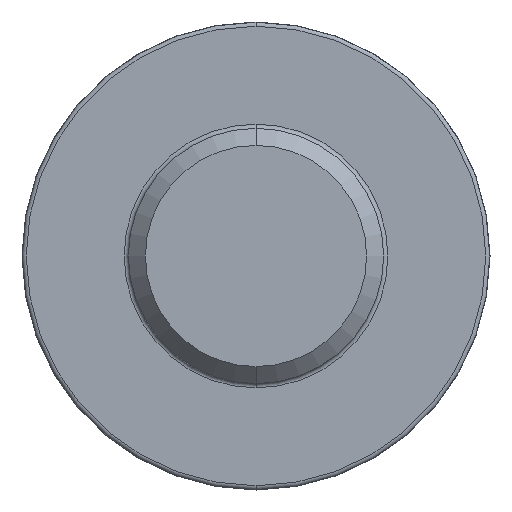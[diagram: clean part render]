
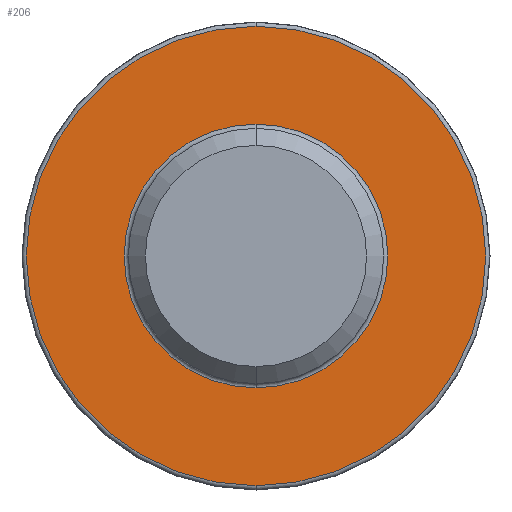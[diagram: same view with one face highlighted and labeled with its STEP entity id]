
A CAD part, front view. The second image highlights one B-rep face of the part: STEP entity #206.
In plain terms, the highlighted planar face has unit normal (0, -1, 0).
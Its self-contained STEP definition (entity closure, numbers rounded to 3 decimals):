
#18 = ORIENTED_EDGE ( 'NONE', *, *, #166, .T. ) ;
#22 = EDGE_LOOP ( 'NONE', ( #783, #685 ) ) ;
#39 = VERTEX_POINT ( 'NONE', #368 ) ;
#42 = PLANE ( 'NONE',  #108 ) ;
#43 = VERTEX_POINT ( 'NONE', #704 ) ;
#48 = VERTEX_POINT ( 'NONE', #103 ) ;
#51 = CARTESIAN_POINT ( 'NONE',  ( 1.5, -1.6, 0. ) ) ;
#60 = DIRECTION ( 'NONE',  ( 0., 1., 0. ) ) ;
#61 = CARTESIAN_POINT ( 'NONE',  ( 0., -1.6, 0. ) ) ;
#103 = CARTESIAN_POINT ( 'NONE',  ( 0., -1.6, -2.7 ) ) ;
#108 = AXIS2_PLACEMENT_3D ( 'NONE', #51, #331, #113 ) ;
#113 = DIRECTION ( 'NONE',  ( 0., 0., 1. ) ) ;
#166 = EDGE_CURVE ( 'NONE', #580, #48, #225, .T. ) ;
#188 = DIRECTION ( 'NONE',  ( 0., -1., 0. ) ) ;
#206 = ADVANCED_FACE ( 'NONE', ( #529, #453 ), #42, .F. ) ;
#216 = DIRECTION ( 'NONE',  ( 0., 0., 1. ) ) ;
#219 = CARTESIAN_POINT ( 'NONE',  ( 0., -1.6, 0. ) ) ;
#225 = CIRCLE ( 'NONE', #582, 2.7 ) ;
#273 = DIRECTION ( 'NONE',  ( 0., 0., 1. ) ) ;
#280 = CIRCLE ( 'NONE', #820, 1.55 ) ;
#296 = EDGE_CURVE ( 'NONE', #48, #580, #700, .T. ) ;
#331 = DIRECTION ( 'NONE',  ( 0., 1., 0. ) ) ;
#334 = DIRECTION ( 'NONE',  ( 0., 0., 1. ) ) ;
#353 = CIRCLE ( 'NONE', #715, 1.55 ) ;
#368 = CARTESIAN_POINT ( 'NONE',  ( 0., -1.6, -1.55 ) ) ;
#453 = FACE_OUTER_BOUND ( 'NONE', #811, .T. ) ;
#462 = CARTESIAN_POINT ( 'NONE',  ( 0., -1.6, 2.7 ) ) ;
#497 = ORIENTED_EDGE ( 'NONE', *, *, #296, .T. ) ;
#529 = FACE_BOUND ( 'NONE', #22, .T. ) ;
#547 = CARTESIAN_POINT ( 'NONE',  ( 0., -1.6, 0. ) ) ;
#578 = AXIS2_PLACEMENT_3D ( 'NONE', #547, #684, #273 ) ;
#580 = VERTEX_POINT ( 'NONE', #462 ) ;
#582 = AXIS2_PLACEMENT_3D ( 'NONE', #61, #188, #603 ) ;
#603 = DIRECTION ( 'NONE',  ( 0., 0., 1. ) ) ;
#684 = DIRECTION ( 'NONE',  ( 0., -1., 0. ) ) ;
#685 = ORIENTED_EDGE ( 'NONE', *, *, #764, .T. ) ;
#689 = DIRECTION ( 'NONE',  ( 0., 1., 0. ) ) ;
#700 = CIRCLE ( 'NONE', #578, 2.7 ) ;
#704 = CARTESIAN_POINT ( 'NONE',  ( 0., -1.6, 1.55 ) ) ;
#715 = AXIS2_PLACEMENT_3D ( 'NONE', #748, #60, #216 ) ;
#748 = CARTESIAN_POINT ( 'NONE',  ( 0., -1.6, 0. ) ) ;
#764 = EDGE_CURVE ( 'NONE', #39, #43, #353, .T. ) ;
#783 = ORIENTED_EDGE ( 'NONE', *, *, #849, .T. ) ;
#811 = EDGE_LOOP ( 'NONE', ( #18, #497 ) ) ;
#820 = AXIS2_PLACEMENT_3D ( 'NONE', #219, #689, #334 ) ;
#849 = EDGE_CURVE ( 'NONE', #43, #39, #280, .T. ) ;
